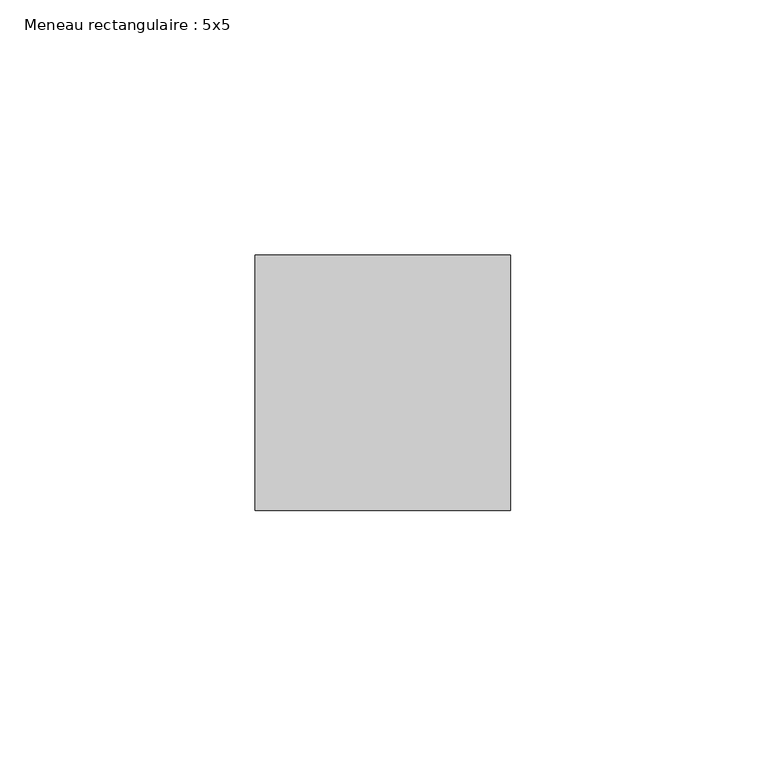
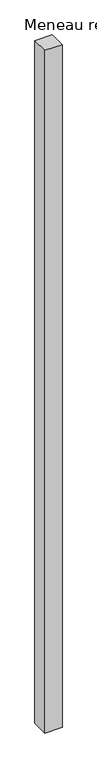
"""IFC4 building model written with IfcOpenShell, lengths in millimetres: member geometry, Meneau rectangulaire : 5x5."""

from ifc_helpers import new_model, si_unit, frame, origin, place, context, project, spatial, polyline, outline, extrude, source, transform, mapped, element, save


def meneau_rectangulaire_5x5_87f91fce(model_context):
    return source(origin(), model_context, "Body", "SweptSolid", [
        extrude(outline(polyline([(0.0, 25.0), (0.0, -25.0), (-50.0, -25.0), (-50.0, 25.0), (0.0, 25.0)])), frame((0.0, 0.0, -2100.0), z_axis=(0.0, 0.0, 1.0), x_axis=(1.0, 0.0, 0.0)), (0.0, 0.0, 1.0), 2100.0),
    ])


if __name__ == "__main__":
    model = new_model("IFC4")
    model_context = context("Model", 3, world=origin())
    ifc_project = project(units=[si_unit("LENGTHUNIT", "METRE", prefix="MILLI")], contexts=[model_context])
    site = spatial("IfcSite", under=ifc_project)
    building = spatial("IfcBuilding", under=site)
    placement = place(None, origin())
    meneau_rectangulaire_5x5_shape = meneau_rectangulaire_5x5_87f91fce(model_context)
    element("IfcMember", 1, ObjectType="Meneau rectangulaire : 5x5", at=placement, inside=building, context=model_context, shape_type="MappedRepresentation", body=[
        mapped(meneau_rectangulaire_5x5_shape, transform((0.0, 0.0, 0.0), x_axis=(1.0, 0.0, 0.0), y_axis=(0.0, 1.0, 0.0), z_axis=(0.0, 0.0, 1.0))),
    ])
    save(model, "model.ifc")
